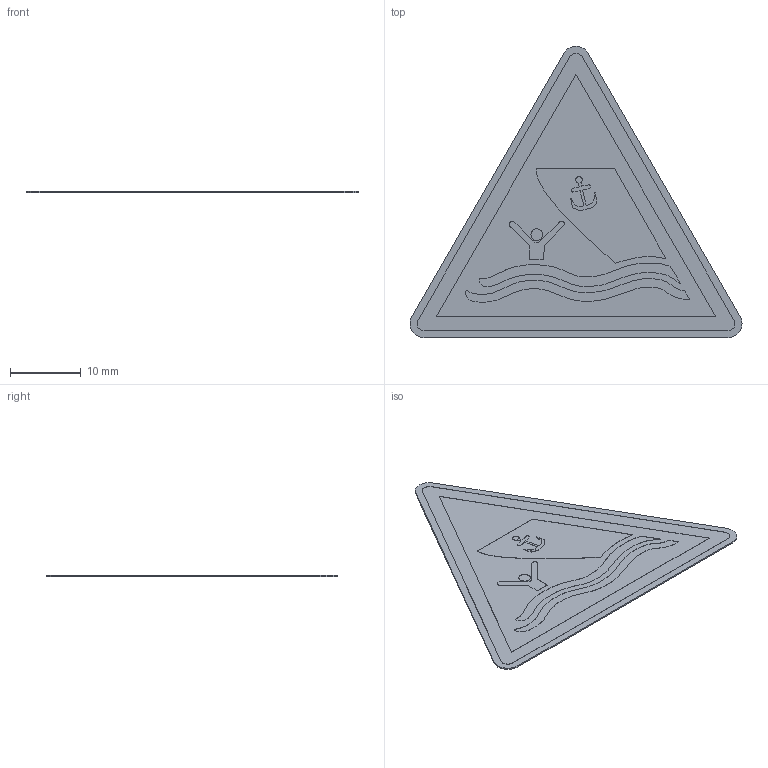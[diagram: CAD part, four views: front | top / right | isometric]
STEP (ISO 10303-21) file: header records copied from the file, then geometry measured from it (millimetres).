
FILE_DESCRIPTION (( 'STEP AP214' ), '1' );
FILE_NAME ('W058_Warnung vor Schiffsverkehr.STEP', '2022-03-05T05:24:59', ( '' ), ( '' ), 'SwSTEP 2.0', 'SolidWorks 2021', '' );
FILE_SCHEMA (( 'AUTOMOTIVE_DESIGN' ));
Length unit declared in the file: millimetre
Products named in the file (1): W058_Warnung vor Schiffsverkehr
Bounding box: 47.07 x 41.3 x 0.22 mm (x, y, z)
Volume: 224.4 mm3; surface area: 2186.8 mm2
Topology: 1 solids, 1 shells, 247 faces, 711 edges, 474 vertices
Faces by surface type: plane 220, cylinder 27
Entity records: 10609 total; most frequent: CARTESIAN_POINT 1433, ORIENTED_EDGE 1422, DIRECTION 1261, EDGE_CURVE 711, LINE 657, VECTOR 657, VERTEX_POINT 474, AXIS2_PLACEMENT_3D 302
